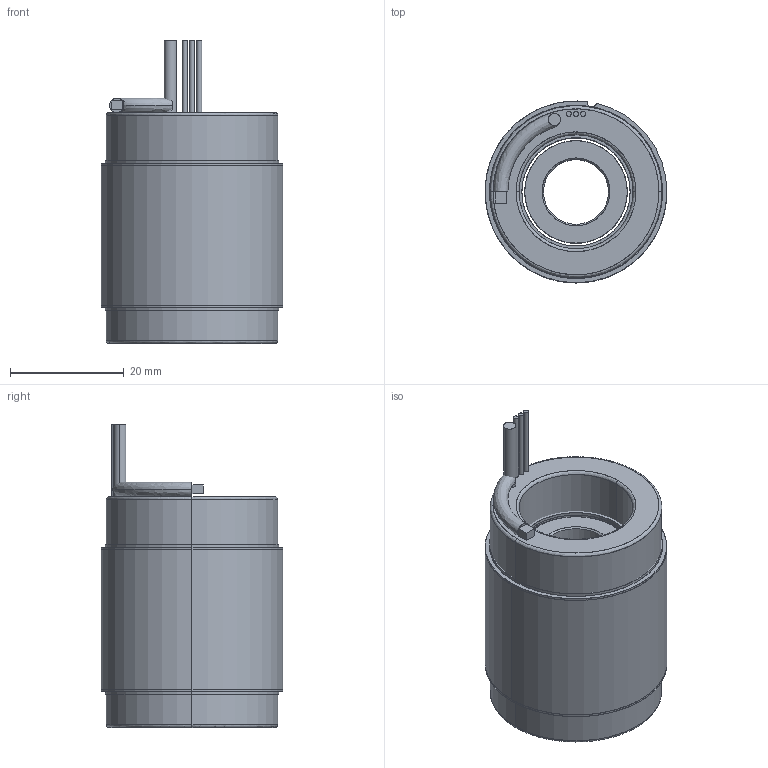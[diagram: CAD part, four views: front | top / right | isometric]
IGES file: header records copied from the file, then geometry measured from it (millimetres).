
Start section: SolidWorks IGES file using analytic representation for surfaces
Global section: file name: \\fs01.aveox.local\user documents\eng\My Documents\STANDARD STATOR ROTOR SETS\NEW DIRECT DRIVE MOTOR\1.26 OD 9s8p\6100335-03.IGS; native system: SolidWorks 2016; preprocessor: SolidWorks 2016; author: eng; date: 191023.125849; units: millimetre
Bounding box: 32 x 32 x 53.34 mm (x, y, z)
Surface area: 19307.7 mm2 (no closed solid volume)
Topology: 0 solids, 0 shells, 90 faces, 1744 edges, 1744 vertices
Faces by surface type: revolution 48, bspline 42
